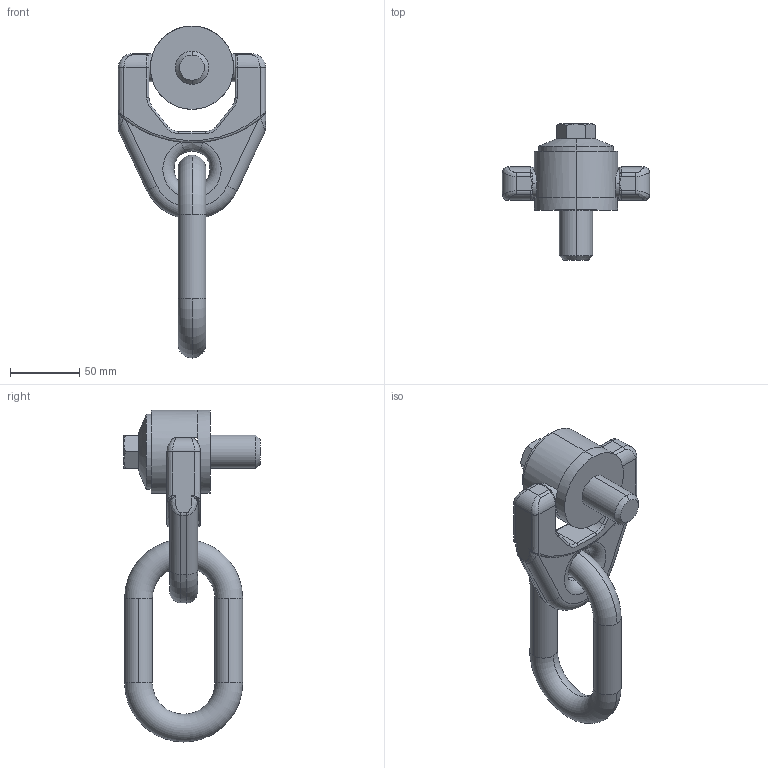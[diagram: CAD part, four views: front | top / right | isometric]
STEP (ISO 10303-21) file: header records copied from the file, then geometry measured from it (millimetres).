
FILE_DESCRIPTION (( 'STEP AP203' ), '1' );
FILE_NAME ('63150.W0024.step', '2013-12-13T11:52:28', ( 'User' ), ( '' ), 'SwSTEP 2.0', 'SolidWorks 2009', '' );
FILE_SCHEMA (( 'CONFIG_CONTROL_DESIGN' ));
Length unit declared in the file: millimetre
Products named in the file (4): Part1_63150.W0024; Part2C; 63150.W0024; Part3_63150.W0024
Assembly tree (3 placements, depth 2):
  63150.W0024
    Part2C
    Part1_63150.W0024
    Part3_63150.W0024
Bounding box: 106 x 98 x 239 mm (x, y, z)
Volume: 383625.8 mm3; surface area: 67435.2 mm2
Topology: 3 solids, 3 shells, 170 faces, 419 edges, 247 vertices
Faces by surface type: cylinder 54, bspline 46, plane 38, torus 22, cone 10
Entity records: 7536 total; most frequent: CARTESIAN_POINT 3436, ORIENTED_EDGE 826, DIRECTION 734, EDGE_CURVE 413, AXIS2_PLACEMENT_3D 305, VERTEX_POINT 247, CIRCLE 175, EDGE_LOOP 174
